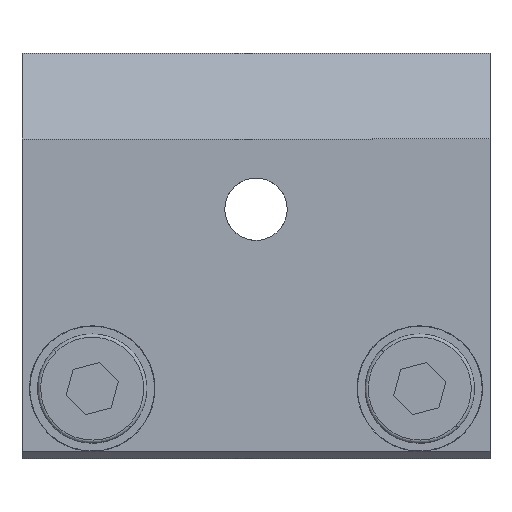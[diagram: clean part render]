
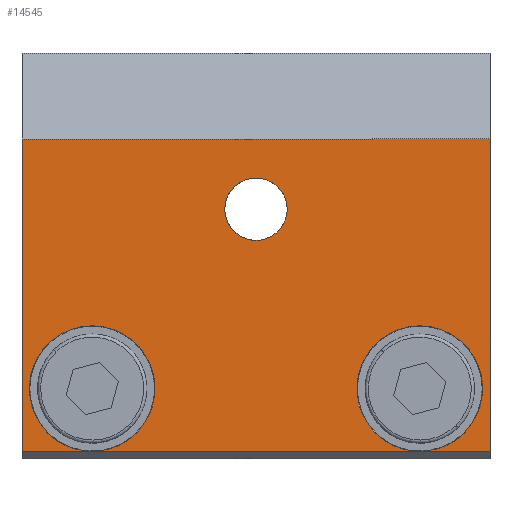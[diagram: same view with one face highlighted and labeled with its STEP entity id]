
A CAD part, left-side view. The second image highlights one B-rep face of the part: STEP entity #14545.
In plain terms, the highlighted planar face has unit normal (-1, 0, 0).
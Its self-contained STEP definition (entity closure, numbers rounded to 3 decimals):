
#177 = CARTESIAN_POINT ( 'NONE',  ( -42.82, -1.083, 7.5 ) ) ;
#205 = CIRCLE ( 'NONE', #12678, 4.025 ) ;
#628 = EDGE_CURVE ( 'NONE', #7930, #18649, #15223, .T. ) ;
#646 = CARTESIAN_POINT ( 'NONE',  ( -42.82, 11.917, 3. ) ) ;
#865 = ORIENTED_EDGE ( 'NONE', *, *, #18046, .F. ) ;
#1035 = DIRECTION ( 'NONE',  ( -1., 0., 0. ) ) ;
#1226 = DIRECTION ( 'NONE',  ( 0., 1., 0. ) ) ;
#1574 = VECTOR ( 'NONE', #15312, 1000. ) ;
#1903 = VERTEX_POINT ( 'NONE', #18753 ) ;
#1916 = PLANE ( 'NONE',  #12923 ) ;
#1971 = CIRCLE ( 'NONE', #12190, 2. ) ;
#1982 = LINE ( 'NONE', #17130, #20376 ) ;
#2000 = DIRECTION ( 'NONE',  ( 0., 0., -1. ) ) ;
#2323 = CARTESIAN_POINT ( 'NONE',  ( -42.82, 28.917, 0. ) ) ;
#2410 = CARTESIAN_POINT ( 'NONE',  ( -42.82, -1.083, -12.5 ) ) ;
#2637 = VECTOR ( 'NONE', #17466, 1000. ) ;
#3196 = CARTESIAN_POINT ( 'NONE',  ( -42.82, 13.917, -12.5 ) ) ;
#3665 = EDGE_CURVE ( 'NONE', #16239, #14714, #1971, .T. ) ;
#3828 = CARTESIAN_POINT ( 'NONE',  ( -42.82, 3.417, -8.5 ) ) ;
#3933 = CIRCLE ( 'NONE', #9085, 2. ) ;
#4154 = FACE_BOUND ( 'NONE', #12905, .T. ) ;
#4465 = AXIS2_PLACEMENT_3D ( 'NONE', #6625, #19098, #8387 ) ;
#4484 = EDGE_CURVE ( 'NONE', #6452, #9498, #17234, .T. ) ;
#4713 = FACE_OUTER_BOUND ( 'NONE', #10291, .T. ) ;
#5472 = VECTOR ( 'NONE', #1226, 1000. ) ;
#5610 = DIRECTION ( 'NONE',  ( 0., 0., 1. ) ) ;
#6209 = CARTESIAN_POINT ( 'NONE',  ( -42.82, 28.917, -12.5 ) ) ;
#6264 = CARTESIAN_POINT ( 'NONE',  ( -42.82, 3.417, -4.475 ) ) ;
#6305 = ORIENTED_EDGE ( 'NONE', *, *, #16242, .F. ) ;
#6417 = DIRECTION ( 'NONE',  ( 0., 0., 1. ) ) ;
#6452 = VERTEX_POINT ( 'NONE', #20499 ) ;
#6625 = CARTESIAN_POINT ( 'NONE',  ( -42.82, 24.417, -8.5 ) ) ;
#6870 = ORIENTED_EDGE ( 'NONE', *, *, #17759, .T. ) ;
#7694 = LINE ( 'NONE', #22629, #5472 ) ;
#7800 = VERTEX_POINT ( 'NONE', #19603 ) ;
#7930 = VERTEX_POINT ( 'NONE', #14597 ) ;
#8043 = CIRCLE ( 'NONE', #21596, 4.025 ) ;
#8249 = EDGE_CURVE ( 'NONE', #9498, #21754, #8043, .T. ) ;
#8387 = DIRECTION ( 'NONE',  ( 0., 0., 1. ) ) ;
#8607 = DIRECTION ( 'NONE',  ( -1., 0., 0. ) ) ;
#9085 = AXIS2_PLACEMENT_3D ( 'NONE', #19328, #8607, #21116 ) ;
#9480 = LINE ( 'NONE', #2323, #19027 ) ;
#9498 = VERTEX_POINT ( 'NONE', #6264 ) ;
#10020 = CARTESIAN_POINT ( 'NONE',  ( -42.82, 3.417, -8.5 ) ) ;
#10035 = EDGE_CURVE ( 'NONE', #1903, #18904, #1982, .T. ) ;
#10291 = EDGE_LOOP ( 'NONE', ( #16600, #14609, #17491, #17741, #21880, #14667, #6305, #12458, #19076, #6870 ) ) ;
#11445 = VERTEX_POINT ( 'NONE', #2410 ) ;
#11560 = CARTESIAN_POINT ( 'NONE',  ( -42.82, 23.969, -12.5 ) ) ;
#11679 = CARTESIAN_POINT ( 'NONE',  ( -42.82, 24.417, -8.5 ) ) ;
#11816 = DIRECTION ( 'NONE',  ( 0., 0., 1. ) ) ;
#12181 = CARTESIAN_POINT ( 'NONE',  ( -42.82, -1.083, 7.5 ) ) ;
#12190 = AXIS2_PLACEMENT_3D ( 'NONE', #14795, #12343, #14814 ) ;
#12343 = DIRECTION ( 'NONE',  ( -1., 0., 0. ) ) ;
#12458 = ORIENTED_EDGE ( 'NONE', *, *, #17339, .T. ) ;
#12665 = LINE ( 'NONE', #17158, #21575 ) ;
#12678 = AXIS2_PLACEMENT_3D ( 'NONE', #11679, #1035, #13511 ) ;
#12692 = DIRECTION ( 'NONE',  ( 1., 0., 0. ) ) ;
#12905 = EDGE_LOOP ( 'NONE', ( #865, #18206 ) ) ;
#12923 = AXIS2_PLACEMENT_3D ( 'NONE', #177, #12692, #2000 ) ;
#13511 = DIRECTION ( 'NONE',  ( 0., 0., 1. ) ) ;
#13773 = VERTEX_POINT ( 'NONE', #11560 ) ;
#14385 = CIRCLE ( 'NONE', #4465, 4.025 ) ;
#14545 = ADVANCED_FACE ( 'NONE', ( #4154, #4713 ), #1916, .F. ) ;
#14597 = CARTESIAN_POINT ( 'NONE',  ( -42.82, 28.917, 7.5 ) ) ;
#14609 = ORIENTED_EDGE ( 'NONE', *, *, #14799, .F. ) ;
#14667 = ORIENTED_EDGE ( 'NONE', *, *, #4484, .F. ) ;
#14714 = VERTEX_POINT ( 'NONE', #646 ) ;
#14783 = DIRECTION ( 'NONE',  ( 0., 0., -1. ) ) ;
#14795 = CARTESIAN_POINT ( 'NONE',  ( -42.82, 13.917, 3. ) ) ;
#14799 = EDGE_CURVE ( 'NONE', #7800, #1903, #205, .T. ) ;
#14814 = DIRECTION ( 'NONE',  ( 0., -1., 0. ) ) ;
#15223 = LINE ( 'NONE', #15756, #1574 ) ;
#15312 = DIRECTION ( 'NONE',  ( 0., -1., 0. ) ) ;
#15544 = EDGE_CURVE ( 'NONE', #13773, #7800, #14385, .T. ) ;
#15601 = EDGE_CURVE ( 'NONE', #21754, #13773, #21633, .T. ) ;
#15756 = CARTESIAN_POINT ( 'NONE',  ( -42.82, 13.917, 7.5 ) ) ;
#16006 = CARTESIAN_POINT ( 'NONE',  ( -42.82, 3.865, -12.5 ) ) ;
#16239 = VERTEX_POINT ( 'NONE', #19009 ) ;
#16242 = EDGE_CURVE ( 'NONE', #11445, #6452, #7694, .T. ) ;
#16266 = DIRECTION ( 'NONE',  ( -1., 0., 0. ) ) ;
#16600 = ORIENTED_EDGE ( 'NONE', *, *, #10035, .F. ) ;
#17130 = CARTESIAN_POINT ( 'NONE',  ( -42.82, 13.917, -12.5 ) ) ;
#17158 = CARTESIAN_POINT ( 'NONE',  ( -42.82, -1.083, 0. ) ) ;
#17210 = DIRECTION ( 'NONE',  ( 0., 1., 0. ) ) ;
#17234 = CIRCLE ( 'NONE', #23143, 4.025 ) ;
#17339 = EDGE_CURVE ( 'NONE', #11445, #18649, #12665, .T. ) ;
#17466 = DIRECTION ( 'NONE',  ( 0., 1., 0. ) ) ;
#17491 = ORIENTED_EDGE ( 'NONE', *, *, #15544, .F. ) ;
#17741 = ORIENTED_EDGE ( 'NONE', *, *, #15601, .F. ) ;
#17759 = EDGE_CURVE ( 'NONE', #7930, #18904, #9480, .T. ) ;
#18046 = EDGE_CURVE ( 'NONE', #14714, #16239, #3933, .T. ) ;
#18206 = ORIENTED_EDGE ( 'NONE', *, *, #3665, .F. ) ;
#18649 = VERTEX_POINT ( 'NONE', #12181 ) ;
#18753 = CARTESIAN_POINT ( 'NONE',  ( -42.82, 24.865, -12.5 ) ) ;
#18904 = VERTEX_POINT ( 'NONE', #6209 ) ;
#19009 = CARTESIAN_POINT ( 'NONE',  ( -42.82, 15.917, 3. ) ) ;
#19027 = VECTOR ( 'NONE', #14783, 1000. ) ;
#19076 = ORIENTED_EDGE ( 'NONE', *, *, #628, .F. ) ;
#19098 = DIRECTION ( 'NONE',  ( -1., 0., 0. ) ) ;
#19328 = CARTESIAN_POINT ( 'NONE',  ( -42.82, 13.917, 3. ) ) ;
#19603 = CARTESIAN_POINT ( 'NONE',  ( -42.82, 24.417, -4.475 ) ) ;
#20376 = VECTOR ( 'NONE', #17210, 1000. ) ;
#20499 = CARTESIAN_POINT ( 'NONE',  ( -42.82, 2.969, -12.5 ) ) ;
#21116 = DIRECTION ( 'NONE',  ( 0., -1., 0. ) ) ;
#21575 = VECTOR ( 'NONE', #6417, 1000. ) ;
#21596 = AXIS2_PLACEMENT_3D ( 'NONE', #10020, #22566, #11816 ) ;
#21633 = LINE ( 'NONE', #3196, #2637 ) ;
#21754 = VERTEX_POINT ( 'NONE', #16006 ) ;
#21880 = ORIENTED_EDGE ( 'NONE', *, *, #8249, .F. ) ;
#22566 = DIRECTION ( 'NONE',  ( -1., 0., 0. ) ) ;
#22629 = CARTESIAN_POINT ( 'NONE',  ( -42.82, 13.917, -12.5 ) ) ;
#23143 = AXIS2_PLACEMENT_3D ( 'NONE', #3828, #16266, #5610 ) ;
